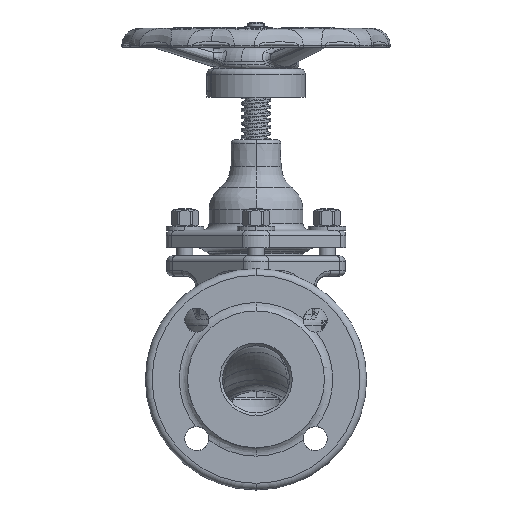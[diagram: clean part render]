
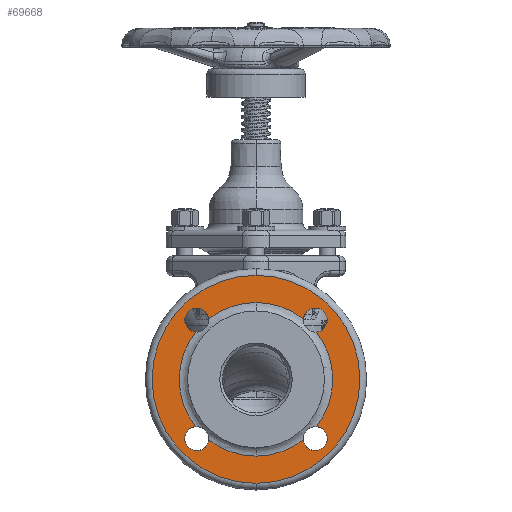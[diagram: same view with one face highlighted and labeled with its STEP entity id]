
A CAD part, left-side view. The second image highlights one B-rep face of the part: STEP entity #69668.
In plain terms, the highlighted planar face has unit normal (-1, 0, 0).
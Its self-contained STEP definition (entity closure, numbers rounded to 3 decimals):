
#10970=CARTESIAN_POINT('',(-112.,45.112,-35.241));
#11060=CARTESIAN_POINT('',(-112.,45.112,35.241));
#11062=CARTESIAN_POINT('',(-112.,35.241,45.112));
#11079=CARTESIAN_POINT('',(-112.,35.241,-45.112));
#11089=CARTESIAN_POINT('',(-112.,0.,0.));
#11090=DIRECTION('',(1.,0.,0.));
#11091=DIRECTION('',(0.,0.,-1.));
#11092=AXIS2_PLACEMENT_3D('',#11089,#11090,#11091);
#11094=CARTESIAN_POINT('',(-112.,0.,0.));
#11095=DIRECTION('',(1.,0.,0.));
#11096=DIRECTION('',(0.,0.,1.));
#11097=AXIS2_PLACEMENT_3D('',#11094,#11095,#11096);
#11099=CARTESIAN_POINT('',(-112.,-44.194,44.194));
#11100=DIRECTION('',(-1.,0.,0.));
#11101=DIRECTION('',(0.,-1.,0.));
#11102=AXIS2_PLACEMENT_3D('',#11099,#11100,#11101);
#11104=CARTESIAN_POINT('',(-112.,0.,0.));
#11105=DIRECTION('',(1.,0.,0.));
#11106=DIRECTION('',(0.,0.,1.));
#11107=AXIS2_PLACEMENT_3D('',#11104,#11105,#11106);
#11109=CARTESIAN_POINT('',(-112.,0.,0.));
#11110=DIRECTION('',(-1.,0.,0.));
#11111=DIRECTION('',(0.,0.,1.));
#11112=AXIS2_PLACEMENT_3D('',#11109,#11110,#11111);
#11114=CARTESIAN_POINT('',(-112.,44.194,44.194));
#11115=DIRECTION('',(-1.,0.,0.));
#11116=DIRECTION('',(0.,-0.995,0.102));
#11117=AXIS2_PLACEMENT_3D('',#11114,#11115,#11116);
#11119=CARTESIAN_POINT('',(-112.,44.194,44.194));
#11120=DIRECTION('',(-1.,0.,0.));
#11121=DIRECTION('',(0.,1.,0.));
#11122=AXIS2_PLACEMENT_3D('',#11119,#11120,#11121);
#11124=CARTESIAN_POINT('',(-112.,0.,0.));
#11125=DIRECTION('',(-1.,0.,0.));
#11126=DIRECTION('',(0.,0.788,0.616));
#11127=AXIS2_PLACEMENT_3D('',#11124,#11125,#11126);
#11129=CARTESIAN_POINT('',(-112.,44.194,-44.194));
#11130=DIRECTION('',(-1.,0.,0.));
#11131=DIRECTION('',(0.,0.102,0.995));
#11132=AXIS2_PLACEMENT_3D('',#11129,#11130,#11131);
#11134=CARTESIAN_POINT('',(-112.,44.194,-44.194));
#11135=DIRECTION('',(-1.,0.,0.));
#11136=DIRECTION('',(0.,1.,0.));
#11137=AXIS2_PLACEMENT_3D('',#11134,#11135,#11136);
#11139=CARTESIAN_POINT('',(-112.,0.,0.));
#11140=DIRECTION('',(-1.,0.,0.));
#11141=DIRECTION('',(0.,0.616,-0.788));
#11142=AXIS2_PLACEMENT_3D('',#11139,#11140,#11141);
#11144=CARTESIAN_POINT('',(-112.,0.,0.));
#11145=DIRECTION('',(1.,0.,0.));
#11146=DIRECTION('',(0.,-0.616,-0.788));
#11147=AXIS2_PLACEMENT_3D('',#11144,#11145,#11146);
#11149=CARTESIAN_POINT('',(-112.,-44.194,-44.194));
#11150=DIRECTION('',(-1.,0.,0.));
#11151=DIRECTION('',(0.,0.995,-0.102));
#11152=AXIS2_PLACEMENT_3D('',#11149,#11150,#11151);
#11154=CARTESIAN_POINT('',(-112.,-44.194,-44.194));
#11155=DIRECTION('',(-1.,0.,0.));
#11156=DIRECTION('',(0.,-1.,0.));
#11157=AXIS2_PLACEMENT_3D('',#11154,#11155,#11156);
#11159=CARTESIAN_POINT('',(-112.,0.,0.));
#11160=DIRECTION('',(1.,0.,0.));
#11161=DIRECTION('',(0.,-0.788,0.616));
#11162=AXIS2_PLACEMENT_3D('',#11159,#11160,#11161);
#11164=CARTESIAN_POINT('',(-112.,-44.194,44.194));
#11165=DIRECTION('',(-1.,0.,0.));
#11166=DIRECTION('',(0.,-0.102,-0.995));
#11167=AXIS2_PLACEMENT_3D('',#11164,#11165,#11166);
#46368=CARTESIAN_POINT('',(-112.,0.,-77.5));
#46369=CARTESIAN_POINT('',(-112.,0.,77.5));
#46370=VERTEX_POINT('',#46368);
#46371=VERTEX_POINT('',#46369);
#48791=CARTESIAN_POINT('',(-112.,0.,57.245));
#48792=VERTEX_POINT('',#48791);
#48793=CARTESIAN_POINT('',(-112.,0.,-57.245));
#48794=VERTEX_POINT('',#48793);
#48859=VERTEX_POINT('',#11062);
#48861=VERTEX_POINT('',#11060);
#48862=CARTESIAN_POINT('',(-112.,53.194,44.194));
#48863=VERTEX_POINT('',#48862);
#48868=VERTEX_POINT('',#10970);
#48870=VERTEX_POINT('',#11079);
#48871=CARTESIAN_POINT('',(-112.,53.194,-44.194));
#48872=VERTEX_POINT('',#48871);
#48877=CARTESIAN_POINT('',(-112.,-53.194,-44.194));
#48878=CARTESIAN_POINT('',(-112.,-45.112,-35.241));
#48879=VERTEX_POINT('',#48877);
#48880=VERTEX_POINT('',#48878);
#48881=CARTESIAN_POINT('',(-112.,-35.241,-45.112));
#48882=VERTEX_POINT('',#48881);
#48888=CARTESIAN_POINT('',(-112.,-53.194,44.194));
#48889=CARTESIAN_POINT('',(-112.,-35.241,45.112));
#48890=VERTEX_POINT('',#48888);
#48891=VERTEX_POINT('',#48889);
#48892=CARTESIAN_POINT('',(-112.,-45.112,35.241));
#48893=VERTEX_POINT('',#48892);
#69632=CARTESIAN_POINT('',(-112.,0.,0.));
#69633=DIRECTION('',(-1.,0.,0.));
#69634=DIRECTION('',(0.,0.,1.));
#69635=AXIS2_PLACEMENT_3D('',#69632,#69633,#69634);
#69636=PLANE('',#69635);
#69638=ORIENTED_EDGE('',*,*,#69637,.T.);
#69640=ORIENTED_EDGE('',*,*,#69639,.T.);
#69641=EDGE_LOOP('',(#69638,#69640));
#69642=FACE_OUTER_BOUND('',#69641,.F.);
#69644=ORIENTED_EDGE('',*,*,#69643,.T.);
#69646=ORIENTED_EDGE('',*,*,#69645,.F.);
#69647=ORIENTED_EDGE('',*,*,#69586,.T.);
#69649=ORIENTED_EDGE('',*,*,#69648,.T.);
#69651=ORIENTED_EDGE('',*,*,#69650,.T.);
#69652=ORIENTED_EDGE('',*,*,#69580,.T.);
#69653=ORIENTED_EDGE('',*,*,#69612,.T.);
#69654=ORIENTED_EDGE('',*,*,#69623,.T.);
#69655=ORIENTED_EDGE('',*,*,#69593,.T.);
#69657=ORIENTED_EDGE('',*,*,#69656,.F.);
#69659=ORIENTED_EDGE('',*,*,#69658,.T.);
#69661=ORIENTED_EDGE('',*,*,#69660,.T.);
#69663=ORIENTED_EDGE('',*,*,#69662,.F.);
#69665=ORIENTED_EDGE('',*,*,#69664,.T.);
#69666=EDGE_LOOP('',(#69644,#69646,#69647,#69649,#69651,#69652,#69653,#69654,
#69655,#69657,#69659,#69661,#69663,#69665));
#69667=FACE_BOUND('',#69666,.F.);
#69668=ADVANCED_FACE('',(#69642,#69667),#69636,.T.);
#11093=CIRCLE('',#11092,77.5);
#11098=CIRCLE('',#11097,77.5);
#11103=CIRCLE('',#11102,9.);
#11108=CIRCLE('',#11107,57.245);
#11113=CIRCLE('',#11112,57.245);
#11118=CIRCLE('',#11117,9.);
#11123=CIRCLE('',#11122,9.);
#11128=CIRCLE('',#11127,57.245);
#11133=CIRCLE('',#11132,9.);
#11138=CIRCLE('',#11137,9.);
#11143=CIRCLE('',#11142,57.245);
#11148=CIRCLE('',#11147,57.245);
#11153=CIRCLE('',#11152,9.);
#11158=CIRCLE('',#11157,9.);
#11163=CIRCLE('',#11162,57.245);
#11168=CIRCLE('',#11167,9.);
#69580=EDGE_CURVE('',#48861,#48868,#11128,.T.);
#69586=EDGE_CURVE('',#48792,#48859,#11113,.T.);
#69593=EDGE_CURVE('',#48870,#48794,#11143,.T.);
#69612=EDGE_CURVE('',#48868,#48872,#11133,.T.);
#69623=EDGE_CURVE('',#48872,#48870,#11138,.T.);
#69637=EDGE_CURVE('',#46370,#46371,#11093,.T.);
#69639=EDGE_CURVE('',#46371,#46370,#11098,.T.);
#69643=EDGE_CURVE('',#48890,#48891,#11103,.T.);
#69645=EDGE_CURVE('',#48792,#48891,#11108,.T.);
#69648=EDGE_CURVE('',#48859,#48863,#11118,.T.);
#69650=EDGE_CURVE('',#48863,#48861,#11123,.T.);
#69656=EDGE_CURVE('',#48882,#48794,#11148,.T.);
#69658=EDGE_CURVE('',#48882,#48879,#11153,.T.);
#69660=EDGE_CURVE('',#48879,#48880,#11158,.T.);
#69662=EDGE_CURVE('',#48893,#48880,#11163,.T.);
#69664=EDGE_CURVE('',#48893,#48890,#11168,.T.);
